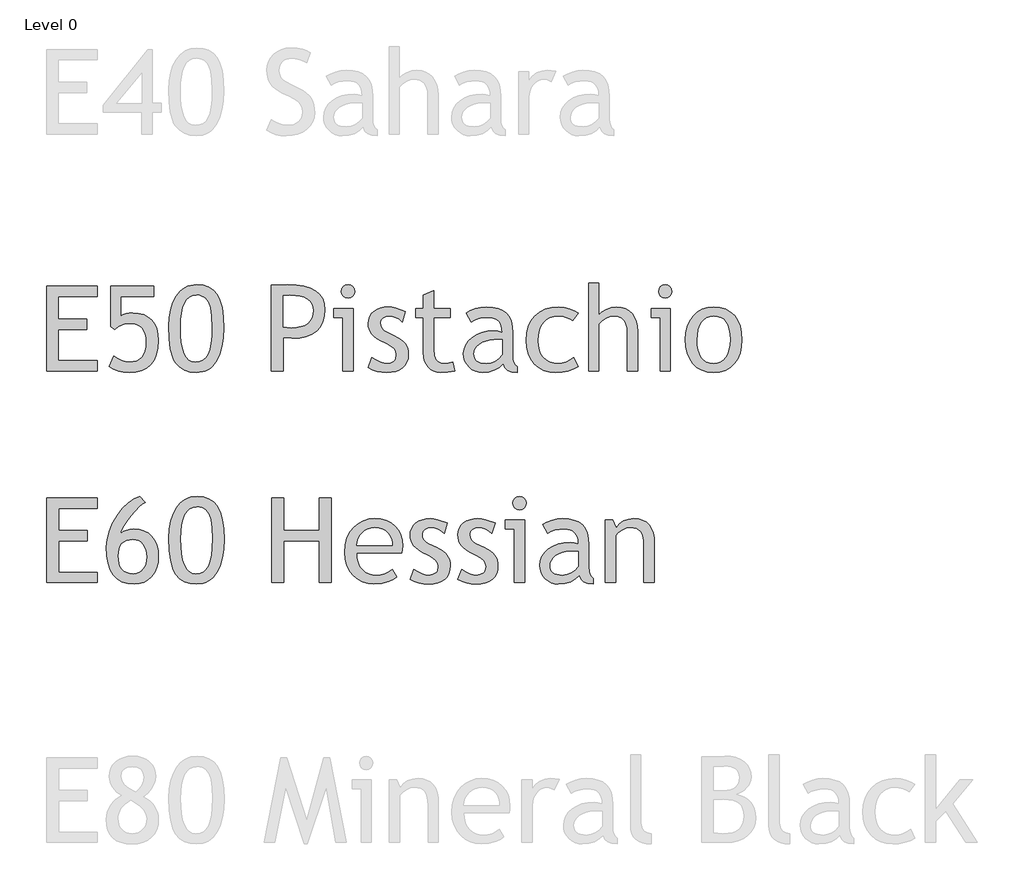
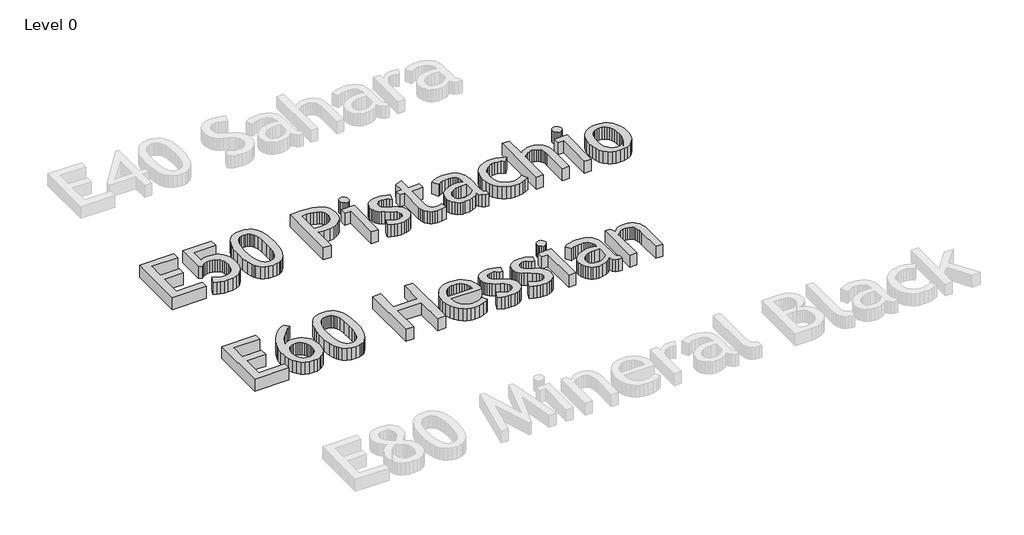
# One storey, part 2 of 5: 2 proxies.
"""IFC4 building model written with IfcOpenShell, lengths in millimetres."""

from ifc_helpers import new_model, si_unit, origin, origin_with_axes, place, context, project, spatial, polyline, outline, extrude, element, save

model = new_model("IFC4")

# Units and contexts
model_context = context("Model", 3, world=origin())
ifc_project = project(units=[si_unit("LENGTHUNIT", "METRE", prefix="MILLI")], contexts=[model_context])

# Site, building, storey
site = spatial("IfcSite", under=ifc_project)
building = spatial("IfcBuilding", under=site)
storey = spatial("IfcBuildingStorey", under=building, Name="Level 0", Elevation=0.0)

# Proxies
placement = place(None, origin())
element("IfcBuildingElementProxy", 1, Name="600mm Arial", ObjectType="600mm Arial", at=placement, inside=storey, context=model_context, shape_type="SweptSolid", body=[
    extrude(outline(polyline([(-18105.4417912, -2234.0434633), (-18105.4417912, -2412.0095649), (-17880.0180624, -2412.0095649), (-17880.0180624, -2495.0604124), (-18105.4417912, -2495.0604124), (-18105.4417912, -2744.2129548), (-17796.9672149, -2744.2129548), (-17796.9672149, -2827.2638022), (-18200.3570454, -2827.2638022), (-18200.3570454, -2150.9926158), (-17796.9672149, -2150.9926158), (-17796.9672149, -2234.0434633), (-18105.4417912, -2234.0434633)])), origin_with_axes(), (0.0, 0.0, 1.0), 150.0),
    extrude(outline(polyline([(-17657.1896725, -2495.0604124), (-17690.1875539, -2473.7415565), (-17690.1875539, -2150.9926158), (-17346.1197573, -2150.9926158), (-17346.1197573, -2234.0434633), (-17607.1367064, -2234.0434633), (-17607.1367064, -2389.9491836), (-17587.8338728, -2378.8378886), (-17566.0747361, -2370.9012493), (-17541.8592965, -2366.1392657), (-17515.1875539, -2364.5519378), (-17468.3497957, -2368.0973563), (-17427.3863092, -2378.7336116), (-17392.2970944, -2396.4607037), (-17363.0821514, -2421.2786327), (-17340.0890701, -2452.6428409), (-17323.6654406, -2490.0087705), (-17313.8112629, -2533.3764214), (-17310.5265369, -2582.7457938), (-17314.1414734, -2642.8354223), (-17324.9862827, -2694.9131004), (-17343.0609649, -2738.9788281), (-17368.36552, -2775.0326052), (-17400.899948, -2803.0744319), (-17440.6642488, -2823.1043081), (-17487.6584225, -2835.1222338), (-17541.8824692, -2839.128209), (-17588.1119448, -2836.1621073), (-17630.2166853, -2827.2638022), (-17668.1966906, -2812.4332938), (-17702.0519607, -2791.6705819), (-17666.4587403, -2708.6197344), (-17634.1328664, -2729.3824463), (-17602.4094819, -2744.2129548), (-17571.2885867, -2753.1112599), (-17540.770181, -2756.0773616), (-17509.0525897, -2753.583403), (-17481.5640105, -2746.1015273), (-17458.3044435, -2733.6317346), (-17439.2738886, -2716.1740247), (-17424.472346, -2693.7283977), (-17413.8998156, -2666.2948536), (-17407.5562973, -2633.8733924), (-17405.4417912, -2596.4640141), (-17407.5476075, -2561.5746636), (-17413.8650565, -2531.3372265), (-17424.3941382, -2505.7517028), (-17439.1348526, -2484.8180925), (-17458.0871997, -2468.5363956), (-17481.2511794, -2456.9066121), (-17508.6267918, -2449.928742), (-17540.2140369, -2447.6027853), (-17571.9258351, -2450.568887), (-17601.9923738, -2459.4671921), (-17630.4136529, -2474.2977005), (-17657.1896725, -2495.0604124)])), origin_with_axes(), (0.0, 0.0, 1.0), 150.0),
    extrude(outline(polyline([(-17227.4756895, -2469.848548), (-17223.7738555, -2400.0930197), (-17212.6683537, -2337.0923245), (-17194.1591839, -2280.8464625), (-17168.2463463, -2231.3554336), (-17135.6250208, -2191.0060228), (-17117.0593677, -2175.1544686), (-17096.9903876, -2162.1850152), (-17075.4180806, -2152.0976625), (-17052.3424466, -2144.8924106), (-17001.681198, -2139.128209), (-16951.7904406, -2143.9365379), (-16908.5270666, -2158.3615247), (-16871.8910761, -2182.4031693), (-16841.8824692, -2216.0614717), (-16818.5244183, -2261.7000443), (-16801.8400963, -2321.6824993), (-16791.8295031, -2396.0088367), (-16788.4926386, -2484.6790565), (-16791.9917117, -2562.782539), (-16802.488931, -2632.1035798), (-16819.9842965, -2692.6421788), (-16844.4778081, -2744.3983361), (-16875.7029803, -2785.8426555), (-16893.7400069, -2802.1243524), (-16913.3933272, -2815.4457408), (-16934.6629412, -2825.8068206), (-16957.5488489, -2833.207592), (-17008.1695454, -2839.128209), (-17058.8539668, -2834.3488459), (-17103.0152817, -2820.0107567), (-17140.6534901, -2796.1139413), (-17171.768592, -2762.6583997), (-17184.824943, -2741.355475), (-17196.1404472, -2715.6816055), (-17213.5489151, -2651.2210321), (-17223.9939959, -2569.2766796), (-17227.4756895, -2469.848548)]), holes=[polyline([(-17132.5604353, -2478.3760904), (-17130.7153114, -2543.4623258), (-17125.17994, -2599.8703965), (-17115.954321, -2647.6003025), (-17103.0384543, -2686.6520438), (-17086.43234, -2717.0256203), (-17066.1359782, -2738.7210321), (-17042.1493686, -2751.7382792), (-17014.4725115, -2756.0773616), (-16982.9634742, -2752.2306984), (-16955.9151757, -2740.690709), (-16933.3276161, -2721.4573933), (-16915.2007954, -2694.5307514), (-16901.2914006, -2657.9758653), (-16891.3561185, -2609.8578171), (-16885.3949493, -2550.1766068), (-16883.4078929, -2478.9322344), (-16886.4666853, -2386.8208732), (-16895.6430624, -2322.9338234), (-16911.6322043, -2279.2301688), (-16922.4422546, -2261.931771), (-16935.1292912, -2247.6689929), (-16949.658555, -2236.5171457), (-16965.9952869, -2228.5515406), (-16984.1394872, -2223.7721775), (-17004.0911556, -2222.1790565), (-17034.201143, -2226.1821351), (-17060.2964654, -2238.1913711), (-17082.3771229, -2258.2067644), (-17100.4431153, -2286.2283149), (-17114.4944428, -2322.2560228), (-17124.5311053, -2366.289888), (-17130.5531028, -2418.3299106), (-17132.5604353, -2478.3760904)])]), origin_with_axes(), (0.0, 0.0, 1.0), 150.0),
    extrude(outline(polyline([(-16313.9163675, -2561.6123192), (-16313.9163675, -2827.2638022), (-16408.8316217, -2827.2638022), (-16408.8316217, -2143.7627429), (-16280.5477234, -2139.128209), (-16210.5083299, -2142.2217604), (-16149.8075221, -2151.5024145), (-16098.4453002, -2166.9701714), (-16056.4216641, -2188.625031), (-16023.7366138, -2216.4669934), (-16000.3901492, -2250.4960586), (-15986.3822705, -2290.7122265), (-15981.7129776, -2337.1154972), (-15985.8261265, -2390.8181587), (-15998.165573, -2437.3604654), (-16018.7313171, -2476.7424172), (-16047.523359, -2508.9640141), (-16084.5416985, -2534.0252562), (-16129.7863357, -2551.9261433), (-16183.2572705, -2562.6666756), (-16244.9545031, -2566.2468531), (-16313.9163675, -2561.6123192)]), holes=[polyline([(-16313.9163675, -2226.8135904), (-16313.9163675, -2478.5614717), (-16251.0720878, -2483.1960056), (-16210.1868091, -2481.0670166), (-16174.7529008, -2474.6800496), (-16144.7703631, -2464.0351045), (-16120.2391958, -2449.1321815), (-16101.1593991, -2429.9712804), (-16087.5309729, -2406.5524013), (-16079.3539171, -2378.8755442), (-16076.6282319, -2346.940709), (-16079.5364019, -2317.6996967), (-16088.2609119, -2292.357486), (-16102.8017621, -2270.914077), (-16123.1589522, -2253.3694696), (-16149.3324824, -2239.7236639), (-16181.3223526, -2229.9766598), (-16219.1285629, -2224.1284573), (-16262.7511132, -2222.1790565), (-16313.9163675, -2226.8135904)])]), origin_with_axes(), (0.0, 0.0, 1.0), 150.0),
    extrude(outline(polyline([(-15839.3400963, -2827.2638022), (-15839.3400963, -2400.1451582), (-15910.5265369, -2400.1451582), (-15910.5265369, -2328.9587175), (-15756.2892488, -2328.9587175), (-15756.2892488, -2827.2638022), (-15839.3400963, -2827.2638022)])), origin_with_axes(), (0.0, 0.0, 1.0), 150.0),
    extrude(outline(polyline([(-15798.0000539, -2139.128209), (-15777.3995507, -2143.0443902), (-15760.0895666, -2154.7929336), (-15748.3410232, -2172.010227), (-15744.424842, -2192.3326582), (-15748.3410232, -2212.9331613), (-15760.0895666, -2230.2431455), (-15777.3995507, -2241.9916889), (-15798.0000539, -2245.90787), (-15818.322485, -2241.9916889), (-15835.5397785, -2230.2431455), (-15847.2883219, -2212.9331613), (-15851.2045031, -2192.3326582), (-15847.3346672, -2171.7785003), (-15835.7251598, -2154.6075522), (-15818.5542117, -2142.9980448), (-15798.0000539, -2139.128209)])), origin_with_axes(), (0.0, 0.0, 1.0), 150.0),
    extrude(outline(polyline([(-15637.645181, -2801.3104124), (-15607.42802, -2720.4841412), (-15573.2251598, -2741.2468531), (-15542.5445454, -2756.0773616), (-15515.3861768, -2764.9756666), (-15491.7500539, -2767.9417683), (-15456.9562907, -2763.5042021), (-15432.1036026, -2750.1915035), (-15423.4051618, -2740.2069795), (-15417.1919898, -2728.0036725), (-15412.2214522, -2696.940709), (-15417.0877128, -2672.435611), (-15431.6864946, -2649.7148086), (-15456.0177975, -2628.7783017), (-15490.0816217, -2609.6260904), (-15540.3431418, -2584.831334), (-15571.0005836, -2566.8029972), (-15590.4656259, -2551.1614452), (-15607.149948, -2533.5270438), (-15620.5205783, -2514.3169008), (-15630.0445454, -2493.9481243), (-15635.7450221, -2472.2121603), (-15637.645181, -2448.9004548), (-15634.8702538, -2419.5522689), (-15626.5454723, -2393.6104654), (-15612.6708365, -2371.0750443), (-15593.2463463, -2351.9460056), (-15569.3495309, -2336.6983891), (-15542.0579194, -2325.8072344), (-15511.3715118, -2319.2725416), (-15477.2903081, -2317.0943107), (-15448.5446116, -2319.284128), (-15416.2534967, -2325.8535798), (-15341.0350115, -2352.131387), (-15365.6907319, -2435.7383785), (-15391.4934993, -2414.9756666), (-15417.3657848, -2400.1451582), (-15443.3075883, -2391.2468531), (-15469.3189098, -2388.2807514), (-15497.844466, -2392.1274145), (-15521.5037615, -2403.6674039), (-15537.4233855, -2421.046906), (-15542.7299268, -2442.4121073), (-15539.381476, -2465.6542948), (-15529.3361238, -2485.8840353), (-15512.5938701, -2503.1013287), (-15489.1547149, -2517.3061751), (-15426.8665793, -2547.1525734), (-15377.3697573, -2575.9098563), (-15358.460859, -2591.6962374), (-15343.4449692, -2608.4211116), (-15332.0092568, -2626.6985546), (-15323.8408908, -2647.1426423), (-15318.9398712, -2669.7533745), (-15317.306198, -2694.5307514), (-15320.1969885, -2726.6133123), (-15328.86936, -2755.0114188), (-15343.3233126, -2779.7250708), (-15363.5588463, -2800.7542683), (-15388.9271262, -2817.5428674), (-15418.7793177, -2829.5347238), (-15453.1154207, -2836.7298377), (-15491.9354353, -2839.128209), (-15530.1008219, -2836.7645967), (-15567.1075751, -2829.6737599), (-15602.9556948, -2817.8556984), (-15637.645181, -2801.3104124)])), origin_with_axes(), (0.0, 0.0, 1.0), 150.0),
    extrude(outline(polyline([(-15198.6621302, -2400.1451582), (-15257.9841641, -2400.1451582), (-15257.9841641, -2328.9587175), (-15198.6621302, -2328.9587175), (-15198.6621302, -2221.6229124), (-15115.6112827, -2186.5858361), (-15115.6112827, -2328.9587175), (-14985.1028081, -2328.9587175), (-14985.1028081, -2400.1451582), (-15115.6112827, -2400.1451582), (-15115.6112827, -2650.59537), (-15110.5132954, -2705.004798), (-15104.1408113, -2725.3272291), (-15095.2193336, -2741.0614717), (-15083.4707901, -2752.8216015), (-15068.617109, -2761.2216942), (-15050.6582901, -2766.2617498), (-15029.5943336, -2767.9417683), (-14996.4110708, -2764.9756666), (-14962.11552, -2756.0773616), (-14949.5095878, -2826.5222768), (-15004.4751598, -2835.976726), (-15064.4460285, -2839.128209), (-15091.6101903, -2836.3706613), (-15116.5613622, -2828.0980183), (-15139.2995441, -2814.31028), (-15159.8247361, -2795.0074463), (-15176.816096, -2771.5103594), (-15188.9527817, -2745.1398616), (-15196.234793, -2715.8959527), (-15198.6621302, -2683.7786327), (-15198.6621302, -2400.1451582)])), origin_with_axes(), (0.0, 0.0, 1.0), 150.0),
    extrude(outline(polyline([(-14562.0625539, -2767.9417683), (-14593.0212403, -2799.0858361), (-14631.2097997, -2821.3315988), (-14676.6282319, -2834.6790565), (-14729.2765369, -2839.128209), (-14758.4856868, -2836.4401794), (-14785.6788145, -2828.3760904), (-14810.8559199, -2814.9359421), (-14834.0170031, -2796.1197344), (-14853.4009411, -2773.3062413), (-14867.2466111, -2747.8742366), (-14875.5540131, -2719.8237201), (-14878.3231471, -2689.1546921), (-14874.0419964, -2652.3564929), (-14861.1985444, -2618.5243955), (-14839.7927909, -2587.6583997), (-14809.8247361, -2559.7585056), (-14773.2177115, -2536.6437678), (-14731.8950486, -2520.1332408), (-14685.8567475, -2510.2269246), (-14635.1028081, -2506.9248192), (-14604.4221937, -2509.8909209), (-14569.8485708, -2518.789226), (-14571.6096937, -2490.9820226), (-14576.8930624, -2466.8824463), (-14585.6986768, -2446.4904972), (-14598.0265369, -2429.8061751), (-14613.8766429, -2416.8294802), (-14633.2489946, -2407.5604124), (-14656.143592, -2401.9989717), (-14682.5604353, -2400.1451582), (-14723.3443336, -2402.3697344), (-14759.1229353, -2409.0434633), (-14789.8962403, -2420.1663446), (-14815.6642488, -2435.7383785), (-14854.5943336, -2364.5519378), (-14824.0991005, -2346.454083), (-14783.7786556, -2331.0906031), (-14739.5188569, -2320.5933838), (-14697.2055624, -2317.0943107), (-14645.7448566, -2320.1936553), (-14601.8500274, -2329.4916889), (-14565.5210748, -2344.9884116), (-14536.7579988, -2366.6838234), (-14514.9003783, -2395.1224821), (-14499.2877922, -2430.8489452), (-14489.9202406, -2473.863213), (-14486.7977234, -2524.1652853), (-14486.7977234, -2703.7998192), (-14484.5731471, -2733.9706349), (-14477.8994183, -2758.6727005), (-14466.7765369, -2777.9060162), (-14451.2045031, -2791.6705819), (-14451.2045031, -2839.128209), (-14495.1167117, -2835.0034738), (-14526.3766429, -2822.6292683), (-14547.7650168, -2800.707923), (-14562.0625539, -2767.9417683)]), holes=[polyline([(-14569.8485708, -2578.1112599), (-14632.6928505, -2578.1112599), (-14666.9188833, -2580.2199728), (-14697.8543971, -2586.5461116), (-14725.4993918, -2597.0896762), (-14749.8538675, -2611.8506666), (-14769.7244315, -2629.4966545), (-14783.9176916, -2648.6952111), (-14792.4336476, -2669.4463367), (-14795.2722997, -2691.750031), (-14793.7371103, -2709.6074695), (-14789.1315422, -2725.0839161), (-14781.4555955, -2738.179371), (-14770.70927, -2748.893834), (-14756.8925658, -2757.2273053), (-14740.0054829, -2763.1797848), (-14697.020181, -2767.9417683), (-14662.1684861, -2763.4926158), (-14629.3559861, -2750.1451582), (-14598.582681, -2727.8993955), (-14569.8485708, -2696.7553277), (-14569.8485708, -2578.1112599)])]), origin_with_axes(), (0.0, 0.0, 1.0), 150.0),
    extrude(outline(polyline([(-13964.7638251, -2364.5519378), (-14009.2553505, -2423.8739717), (-14028.0947308, -2411.4302482), (-14057.5471937, -2399.6817048), (-14092.0049533, -2391.1309897), (-14125.8602234, -2388.2807514), (-14160.5844686, -2391.5365115), (-14191.5315687, -2401.3037916), (-14218.7015237, -2417.582592), (-14242.0943336, -2440.3729124), (-14260.9105412, -2468.8289505), (-14274.3506895, -2502.1049039), (-14282.4147785, -2540.2007726), (-14285.1028081, -2583.1165565), (-14282.3800195, -2625.568887), (-14274.2116535, -2662.6451582), (-14260.5977101, -2694.34537), (-14241.5381895, -2720.6695226), (-14217.6471672, -2741.3511301), (-14189.5387192, -2756.1237069), (-14157.2128452, -2764.987253), (-14120.6695454, -2767.9417683), (-14090.6609384, -2764.9756666), (-14060.5132954, -2756.0773616), (-14030.2266164, -2741.2468531), (-13999.8009014, -2720.4841412), (-13964.7638251, -2791.6705819), (-14002.8596937, -2812.4332938), (-14045.2193336, -2827.2638022), (-14091.8427446, -2836.1621073), (-14142.7299268, -2839.128209), (-14191.9428836, -2834.8122993), (-14236.6951016, -2821.8645702), (-14276.9865806, -2800.2850218), (-14312.8173208, -2770.0736539), (-14342.2176453, -2732.4933772), (-14363.217877, -2688.807102), (-14375.818016, -2639.0148285), (-14380.0180624, -2583.1165565), (-14375.6268415, -2525.9264082), (-14362.4531789, -2474.6684633), (-14340.4970746, -2429.3427217), (-14309.7585285, -2389.9491836), (-14271.3961741, -2358.0751767), (-14226.568645, -2335.3080289), (-14175.2759411, -2321.6477403), (-14117.5180624, -2317.0943107), (-14076.5719554, -2320.9641465), (-14032.3353293, -2332.5736539), (-13992.5015105, -2348.3078965), (-13964.7638251, -2364.5519378)])), origin_with_axes(), (0.0, 0.0, 1.0), 150.0),
    extrude(outline(polyline([(-13573.2384014, -2827.2638022), (-13573.2384014, -2509.8909209), (-13575.0053174, -2483.1206944), (-13580.3060656, -2459.3513287), (-13589.1406458, -2438.5828237), (-13601.5090581, -2420.8151794), (-13617.0868852, -2406.5813671), (-13635.5497096, -2396.4143584), (-13656.8975314, -2390.3141531), (-13681.1303505, -2388.2807514), (-13714.3367859, -2393.0543213), (-13747.5895666, -2407.375031), (-13776.9956842, -2428.0450522), (-13798.6621302, -2451.8665565), (-13798.6621302, -2827.2638022), (-13881.7129776, -2827.2638022), (-13881.7129776, -2127.2638022), (-13798.6621302, -2127.2638022), (-13798.6621302, -2381.0508785), (-13775.4431153, -2356.0243955), (-13741.3792912, -2335.4470649), (-13701.2442276, -2321.6824993), (-13659.8114946, -2317.0943107), (-13622.2775632, -2320.3674503), (-13589.0189893, -2330.186869), (-13560.0357729, -2346.5525668), (-13535.3279141, -2369.4645438), (-13515.5790065, -2398.0422384), (-13501.4726439, -2431.4050893), (-13493.0088264, -2469.5530965), (-13490.1875539, -2512.4862599), (-13490.1875539, -2827.2638022), (-13573.2384014, -2827.2638022)])), origin_with_axes(), (0.0, 0.0, 1.0), 150.0),
    extrude(outline(polyline([(-13312.2214522, -2827.2638022), (-13312.2214522, -2400.1451582), (-13383.4078929, -2400.1451582), (-13383.4078929, -2328.9587175), (-13229.1706047, -2328.9587175), (-13229.1706047, -2827.2638022), (-13312.2214522, -2827.2638022)])), origin_with_axes(), (0.0, 0.0, 1.0), 150.0),
    extrude(outline(polyline([(-13270.8814098, -2139.128209), (-13250.2809067, -2143.0443902), (-13232.9709225, -2154.7929336), (-13221.2223791, -2172.010227), (-13217.306198, -2192.3326582), (-13221.2223791, -2212.9331613), (-13232.9709225, -2230.2431455), (-13250.2809067, -2241.9916889), (-13270.8814098, -2245.90787), (-13291.203841, -2241.9916889), (-13308.4211344, -2230.2431455), (-13320.1696778, -2212.9331613), (-13324.085859, -2192.3326582), (-13320.2160232, -2171.7785003), (-13308.6065158, -2154.6075522), (-13291.4355677, -2142.9980448), (-13270.8814098, -2139.128209)])), origin_with_axes(), (0.0, 0.0, 1.0), 150.0),
    extrude(outline(polyline([(-13110.5265369, -2576.9989717), (-13106.6451148, -2521.5062215), (-13095.0008484, -2471.6328435), (-13075.5937377, -2427.378838), (-13048.4237827, -2388.7442048), (-13014.9161026, -2357.3973761), (-12976.4958166, -2335.0067842), (-12933.1629247, -2321.5724291), (-12884.9174268, -2317.0943107), (-12834.3488688, -2321.3986341), (-12789.7936185, -2334.3116041), (-12751.251676, -2355.8332209), (-12718.7230412, -2385.9634844), (-12692.8913079, -2423.7291425), (-12674.4400698, -2468.1569431), (-12663.3693269, -2519.2468862), (-12659.6790793, -2576.9989717), (-12663.4620176, -2634.5946417), (-12674.8108325, -2685.7714823), (-12693.725524, -2730.5294934), (-12720.206092, -2768.8686751), (-12753.1981802, -2799.6072212), (-12791.6474321, -2821.5633255), (-12835.5538476, -2834.7369881), (-12884.9174268, -2839.128209), (-12935.1963264, -2834.696436), (-12979.624127, -2821.4011169), (-13018.2008285, -2799.2422517), (-13050.926431, -2768.2198404), (-13077.0014774, -2729.6778978), (-13095.6265105, -2684.9604389), (-13106.8015303, -2634.0674635), (-13110.5265369, -2576.9989717)]), holes=[polyline([(-13015.6112827, -2576.9989717), (-13013.5691912, -2621.7511897), (-13007.4429167, -2660.5364452), (-12997.2324592, -2693.3547384), (-12982.9378187, -2720.2060692), (-12964.5589952, -2741.0904376), (-12942.0959888, -2756.0078435), (-12915.5487993, -2764.9582871), (-12884.9174268, -2767.9417683), (-12856.0674533, -2764.7439399), (-12830.5079988, -2755.1504548), (-12808.2390634, -2739.1613128), (-12789.2606471, -2716.7765141), (-12774.0941349, -2688.8534474), (-12763.2609119, -2656.2495014), (-12756.7609782, -2618.9646762), (-12754.5943336, -2576.9989717), (-12756.6306319, -2532.7681388), (-12762.7395269, -2494.4347503), (-12772.9210185, -2461.9988062), (-12787.1751069, -2435.4603065), (-12805.5017918, -2414.8192511), (-12827.9010735, -2400.0756402), (-12854.3729518, -2391.2294736), (-12884.9174268, -2388.2807514), (-12913.1764972, -2391.4206481), (-12938.4462933, -2400.8403383), (-12960.726815, -2416.5398218), (-12980.0180624, -2438.5190988), (-12995.5900963, -2466.0134712), (-13006.7129776, -2498.2582408), (-13013.3867064, -2535.2534076), (-13015.6112827, -2576.9989717)])]), origin_with_axes(), (0.0, 0.0, 1.0), 150.0),
])
element("IfcBuildingElementProxy", 2, Name="600mm Arial", ObjectType="600mm Arial", at=placement, inside=storey, context=model_context, shape_type="SweptSolid", body=[
    extrude(outline(polyline([(-18103.2260811, -3921.2634747), (-18103.2260811, -4099.2295764), (-17877.8023522, -4099.2295764), (-17877.8023522, -4182.2804238), (-18103.2260811, -4182.2804238), (-18103.2260811, -4431.4329662), (-17794.7515048, -4431.4329662), (-17794.7515048, -4514.4838137), (-18198.1413353, -4514.4838137), (-18198.1413353, -3838.2126272), (-17794.7515048, -3838.2126272), (-17794.7515048, -3921.2634747), (-18103.2260811, -3921.2634747)])), origin_with_axes(), (0.0, 0.0, 1.0), 150.0),
    extrude(outline(polyline([(-17458.8404878, -3826.3482204), (-17415.0904878, -3873.8058476), (-17436.9481083, -3886.5392295), (-17463.2201224, -3908.7965785), (-17529.0073311, -3981.8831781), (-17562.1500416, -4025.3435197), (-17586.9621775, -4063.5900107), (-17603.4437386, -4096.6226511), (-17611.5947251, -4124.4414408), (-17590.6350456, -4108.2205721), (-17565.9445662, -4096.6342374), (-17537.5232871, -4089.6824365), (-17505.3712082, -4087.3651696), (-17462.9130845, -4090.9743129), (-17424.892527, -4101.8017427), (-17391.3095358, -4119.8474591), (-17362.1641107, -4145.111462), (-17338.603299, -4176.7016037), (-17321.7741478, -4213.7257363), (-17311.6766571, -4256.18386), (-17308.3108268, -4304.0759747), (-17311.7693477, -4351.6900173), (-17322.1449105, -4394.426213), (-17339.4375151, -4432.2845618), (-17363.6471616, -4465.2650637), (-17393.0706587, -4491.9889448), (-17426.0048152, -4511.0774313), (-17462.4496311, -4522.5305231), (-17502.4051065, -4526.3482204), (-17554.2394716, -4521.7368592), (-17599.1625879, -4507.9027755), (-17637.1744557, -4484.8459694), (-17668.2750747, -4452.5664408), (-17692.4644451, -4411.0641897), (-17709.7425668, -4360.3392162), (-17720.1094398, -4300.3915202), (-17723.5650641, -4231.2211018), (-17718.2585228, -4169.4949034), (-17702.3388989, -4107.038766), (-17675.8061923, -4043.8526895), (-17638.6604031, -3979.9366738), (-17595.5824105, -3922.1266566), (-17551.2530938, -3877.2585753), (-17505.6724529, -3845.3324299), (-17458.8404878, -3826.3482204)]), holes=[polyline([(-17628.6498099, -4301.4806357), (-17626.8017895, -4334.7189335), (-17621.2577283, -4363.5254583), (-17612.0176263, -4387.90021), (-17599.0814836, -4407.8431887), (-17582.4493001, -4423.3543943), (-17562.1210758, -4434.4338269), (-17538.0968107, -4441.0814865), (-17510.3765048, -4443.297373), (-17486.8446589, -4440.9858992), (-17465.9313247, -4434.0514779), (-17447.6365021, -4422.494109), (-17431.9601912, -4406.3137925), (-17419.389018, -4386.3447445), (-17410.4096086, -4363.4211813), (-17405.0219629, -4337.5431026), (-17403.2260811, -4308.7105086), (-17405.12624, -4278.7830059), (-17410.8267167, -4252.030159), (-17420.3275111, -4228.4519678), (-17433.6286234, -4208.0484323), (-17449.9190101, -4191.5842506), (-17468.3876277, -4179.8241209), (-17489.0344762, -4172.768043), (-17511.8595556, -4170.4160171), (-17539.2322715, -4172.4639017), (-17562.9552919, -4178.6075557), (-17583.0286168, -4188.8469791), (-17599.4522463, -4203.1821717), (-17612.2261804, -4221.6131337), (-17621.350419, -4244.139865), (-17626.8249621, -4270.7623657), (-17628.6498099, -4301.4806357)])]), origin_with_axes(), (0.0, 0.0, 1.0), 150.0),
    extrude(outline(polyline([(-17225.2599794, -4157.0685594), (-17221.5581454, -4087.3130311), (-17210.4526436, -4024.3123359), (-17191.9434738, -3968.0664739), (-17166.0306361, -3918.575445), (-17133.4093107, -3878.2260343), (-17114.8436575, -3862.37448), (-17094.7746775, -3849.4050266), (-17073.2023705, -3839.3176739), (-17050.1267365, -3832.112422), (-16999.4654878, -3826.3482204), (-16949.5747304, -3831.1565494), (-16906.3113565, -3845.5815361), (-16869.675366, -3869.6231807), (-16839.666759, -3903.2814832), (-16816.3087082, -3948.9200557), (-16799.6243861, -4008.9025107), (-16789.6137929, -4083.2288481), (-16786.2769285, -4171.8990679), (-16789.7760016, -4250.0025504), (-16800.2732209, -4319.3235912), (-16817.7685864, -4379.8621903), (-16842.262098, -4431.6183476), (-16873.4872701, -4473.062667), (-16891.5242968, -4489.3443639), (-16911.1776171, -4502.6657522), (-16932.4472311, -4513.0268321), (-16955.3331388, -4520.4276034), (-17005.9538353, -4526.3482204), (-17056.6382566, -4521.5688574), (-17100.7995715, -4507.2307681), (-17138.4377799, -4483.3339527), (-17169.5528819, -4449.8784111), (-17182.6092329, -4428.5754864), (-17193.924737, -4402.9016169), (-17211.333205, -4338.4410435), (-17221.7782858, -4256.496691), (-17225.2599794, -4157.0685594)]), holes=[polyline([(-17130.3447251, -4165.5961018), (-17128.4996013, -4230.6823372), (-17122.9642299, -4287.0904079), (-17113.7386109, -4334.8203139), (-17100.8227442, -4373.8720552), (-17084.2166299, -4404.2456317), (-17063.920268, -4425.9410435), (-17039.9336585, -4438.9582906), (-17012.2568014, -4443.297373), (-16980.7477641, -4439.4507099), (-16953.6994656, -4427.9107204), (-16931.111906, -4408.6774048), (-16912.9850853, -4381.7507628), (-16899.0756904, -4345.1958767), (-16889.1404084, -4297.0778285), (-16883.1792392, -4237.3966182), (-16881.1921828, -4166.1522459), (-16884.2509751, -4074.0408846), (-16893.4273522, -4010.1538349), (-16909.4164942, -3966.4501802), (-16920.2265445, -3949.1517824), (-16932.9135811, -3934.8890043), (-16947.4428448, -3923.7371572), (-16963.7795768, -3915.771552), (-16981.923777, -3910.9921889), (-17001.8754455, -3909.3990679), (-17031.9854329, -3913.4021466), (-17058.0807553, -3925.4113825), (-17080.1614128, -3945.4267758), (-17098.2274052, -3973.4483264), (-17112.2787327, -4009.4760343), (-17122.3153951, -4053.5098995), (-17128.3373926, -4105.549922), (-17130.3447251, -4165.5961018)])]), origin_with_axes(), (0.0, 0.0, 1.0), 150.0),
    extrude(outline(polyline([(-16026.9548946, -4514.4838137), (-16026.9548946, -4182.2804238), (-16311.7006573, -4182.2804238), (-16311.7006573, -4514.4838137), (-16406.6159116, -4514.4838137), (-16406.6159116, -3838.2126272), (-16311.7006573, -3838.2126272), (-16311.7006573, -4099.2295764), (-16026.9548946, -4099.2295764), (-16026.9548946, -3838.2126272), (-15932.0396404, -3838.2126272), (-15932.0396404, -4514.4838137), (-16026.9548946, -4514.4838137)])), origin_with_axes(), (0.0, 0.0, 1.0), 150.0),
    extrude(outline(polyline([(-15369.5926065, -4277.1956781), (-15730.3447251, -4277.1956781), (-15727.3554508, -4319.0223465), (-15718.3876277, -4355.7046823), (-15703.4412558, -4387.2426855), (-15682.5163353, -4413.636356), (-15659.7955329, -4431.8037289), (-15634.0854561, -4444.7804238), (-15605.3861049, -4452.5664408), (-15573.6974794, -4455.1617798), (-15537.3627336, -4452.1956781), (-15504.1794709, -4443.297373), (-15474.1476912, -4428.4668645), (-15447.2673946, -4407.7041526), (-15410.0057421, -4467.0261865), (-15436.0518226, -4487.6035171), (-15473.0354031, -4505.2147459), (-15529.2986446, -4521.0648518), (-15591.6794709, -4526.3482204), (-15637.0747304, -4522.3277623), (-15678.9013989, -4510.2663878), (-15717.1594762, -4490.164097), (-15751.8489624, -4462.0208899), (-15783.9662823, -4423.4731542), (-15806.9072251, -4378.8310065), (-15820.6717908, -4328.0944466), (-15825.2599794, -4271.2634747), (-15820.5443411, -4212.0573041), (-15806.3974264, -4159.0150637), (-15782.8192352, -4112.1367533), (-15749.8097675, -4071.422373), (-15714.5177919, -4042.0626007), (-15676.1206785, -4021.0913349), (-15634.6184275, -4008.5085753), (-15590.0110387, -4004.3143221), (-15539.1702018, -4008.1493989), (-15494.1688777, -4019.6546293), (-15455.0070662, -4038.8300133), (-15421.6847675, -4065.675551), (-15395.812482, -4097.5611442), (-15377.3322781, -4134.2666526), (-15366.2441557, -4175.7920764), (-15362.548115, -4222.1374154), (-15364.3092378, -4250.8251802), (-15369.5926065, -4277.1956781)]), holes=[polyline([(-15583.3373099, -4075.5007628), (-15612.6043914, -4078.1424471), (-15639.41517, -4086.0675001), (-15663.7696457, -4099.2759217), (-15685.6678183, -4117.767712), (-15703.2674608, -4139.1097406), (-15716.5801594, -4162.9080721), (-15725.6059142, -4189.1627067), (-15730.3447251, -4217.8736442), (-15445.5989624, -4217.8736442), (-15447.7540207, -4189.4407787), (-15454.2191955, -4163.4642162), (-15464.9944868, -4139.9439567), (-15480.0798946, -4118.8800001), (-15500.7846748, -4099.9015838), (-15524.8958374, -4086.3455721), (-15552.4133824, -4078.2119651), (-15583.3373099, -4075.5007628)])]), origin_with_axes(), (0.0, 0.0, 1.0), 150.0),
    extrude(outline(polyline([(-15303.2260811, -4488.5304238), (-15273.00892, -4407.7041526), (-15238.8060599, -4428.4668645), (-15208.1254455, -4443.297373), (-15180.9670768, -4452.1956781), (-15157.3309539, -4455.1617798), (-15122.5371907, -4450.7242136), (-15097.6845027, -4437.4115149), (-15088.9860619, -4427.426991), (-15082.7728899, -4415.2236839), (-15077.8023522, -4384.1607204), (-15082.6686128, -4359.6556225), (-15097.2673946, -4336.93482), (-15121.5986976, -4315.9983131), (-15155.6625217, -4296.8461018), (-15205.9240419, -4272.0513454), (-15236.5814836, -4254.0230086), (-15256.046526, -4238.3814567), (-15272.730848, -4220.7470552), (-15286.1014783, -4201.5369122), (-15295.6254455, -4181.1681357), (-15301.3259222, -4159.4321717), (-15303.2260811, -4136.1204662), (-15300.4511539, -4106.7722803), (-15292.1263724, -4080.8304768), (-15278.2517365, -4058.2950557), (-15258.8272463, -4039.1660171), (-15234.9304309, -4023.9184005), (-15207.6388194, -4013.0272459), (-15176.9524118, -4006.4925531), (-15142.8712082, -4004.3143221), (-15114.1255117, -4006.5041394), (-15081.8343967, -4013.0735912), (-15006.6159116, -4039.3513984), (-15031.2716319, -4122.9583899), (-15057.0743994, -4102.1956781), (-15082.9466849, -4087.3651696), (-15108.8884884, -4078.4668645), (-15134.8998099, -4075.5007628), (-15163.425366, -4079.347426), (-15187.0846616, -4090.8874154), (-15203.0042855, -4108.2669175), (-15208.3108268, -4129.6321188), (-15204.9623761, -4152.8743063), (-15194.9170239, -4173.1040467), (-15178.1747701, -4190.3213401), (-15154.735615, -4204.5261865), (-15092.4474794, -4234.3725849), (-15042.9506573, -4263.1298677), (-15024.041759, -4278.9162488), (-15009.0258692, -4295.641123), (-14997.5901568, -4313.918566), (-14989.4217908, -4334.3626537), (-14984.5207712, -4356.973386), (-14982.887098, -4381.7507628), (-14985.7778885, -4413.8333237), (-14994.4502601, -4442.2314302), (-15008.9042127, -4466.9450822), (-15029.1397463, -4487.9742798), (-15054.5080262, -4504.7628788), (-15084.3602177, -4516.7547353), (-15118.6963207, -4523.9498492), (-15157.5163353, -4526.3482204), (-15195.6817219, -4523.9846082), (-15232.6884751, -4516.8937713), (-15268.5365948, -4505.0757099), (-15303.2260811, -4488.5304238)])), origin_with_axes(), (0.0, 0.0, 1.0), 150.0),
    extrude(outline(polyline([(-14923.5650641, -4488.5304238), (-14893.3479031, -4407.7041526), (-14859.1450429, -4428.4668645), (-14828.4644285, -4443.297373), (-14801.3060599, -4452.1956781), (-14777.669937, -4455.1617798), (-14742.8761737, -4450.7242136), (-14718.0234857, -4437.4115149), (-14709.3250449, -4427.426991), (-14703.1118729, -4415.2236839), (-14698.1413353, -4384.1607204), (-14703.0075959, -4359.6556225), (-14717.6063777, -4336.93482), (-14741.9376806, -4315.9983131), (-14776.0015048, -4296.8461018), (-14826.2630249, -4272.0513454), (-14856.9204667, -4254.0230086), (-14876.385509, -4238.3814567), (-14893.0698311, -4220.7470552), (-14906.4404614, -4201.5369122), (-14915.9644285, -4181.1681357), (-14921.6649052, -4159.4321717), (-14923.5650641, -4136.1204662), (-14920.7901369, -4106.7722803), (-14912.4653554, -4080.8304768), (-14898.5907196, -4058.2950557), (-14879.1662294, -4039.1660171), (-14855.269414, -4023.9184005), (-14827.9778025, -4013.0272459), (-14797.2913949, -4006.4925531), (-14763.2101912, -4004.3143221), (-14734.4644947, -4006.5041394), (-14702.1733798, -4013.0735912), (-14626.9548946, -4039.3513984), (-14651.610615, -4122.9583899), (-14677.4133824, -4102.1956781), (-14703.2856679, -4087.3651696), (-14729.2274714, -4078.4668645), (-14755.2387929, -4075.5007628), (-14783.7643491, -4079.347426), (-14807.4236446, -4090.8874154), (-14823.3432686, -4108.2669175), (-14828.6498099, -4129.6321188), (-14825.3013591, -4152.8743063), (-14815.2560069, -4173.1040467), (-14798.5137532, -4190.3213401), (-14775.074598, -4204.5261865), (-14712.7864624, -4234.3725849), (-14663.2896404, -4263.1298677), (-14644.3807421, -4278.9162488), (-14629.3648522, -4295.641123), (-14617.9291399, -4313.918566), (-14609.7607739, -4334.3626537), (-14604.8597543, -4356.973386), (-14603.2260811, -4381.7507628), (-14606.1168716, -4413.8333237), (-14614.7892431, -4442.2314302), (-14629.2431957, -4466.9450822), (-14649.4787294, -4487.9742798), (-14674.8470093, -4504.7628788), (-14704.6992008, -4516.7547353), (-14739.0353038, -4523.9498492), (-14777.8553183, -4526.3482204), (-14816.020705, -4523.9846082), (-14853.0274582, -4516.8937713), (-14888.8755779, -4505.0757099), (-14923.5650641, -4488.5304238)])), origin_with_axes(), (0.0, 0.0, 1.0), 150.0),
    extrude(outline(polyline([(-14472.7176065, -4514.4838137), (-14472.7176065, -4087.3651696), (-14543.9040472, -4087.3651696), (-14543.9040472, -4016.1787289), (-14389.666759, -4016.1787289), (-14389.666759, -4514.4838137), (-14472.7176065, -4514.4838137)])), origin_with_axes(), (0.0, 0.0, 1.0), 150.0),
    extrude(outline(polyline([(-14431.3775641, -3826.3482204), (-14410.7770609, -3830.2644016), (-14393.4670768, -3842.012945), (-14381.7185334, -3859.2302385), (-14377.8023522, -3879.5526696), (-14381.7185334, -3900.1531728), (-14393.4670768, -3917.4631569), (-14410.7770609, -3929.2117003), (-14431.3775641, -3933.1278815), (-14451.6999953, -3929.2117003), (-14468.9172887, -3917.4631569), (-14480.6658321, -3900.1531728), (-14484.5820133, -3879.5526696), (-14480.7121775, -3858.9985118), (-14469.10267, -3841.8275637), (-14451.9317219, -3830.2180563), (-14431.3775641, -3826.3482204)])), origin_with_axes(), (0.0, 0.0, 1.0), 150.0),
    extrude(outline(polyline([(-13954.762098, -4455.1617798), (-13985.7207844, -4486.3058476), (-14023.9093438, -4508.5516103), (-14069.327776, -4521.8990679), (-14121.9760811, -4526.3482204), (-14151.185231, -4523.6601908), (-14178.3783586, -4515.5961018), (-14203.555464, -4502.1559535), (-14226.7165472, -4483.3397459), (-14246.1004852, -4460.5262528), (-14259.9461552, -4435.094248), (-14268.2535572, -4407.0437316), (-14271.0226912, -4376.3747035), (-14266.7415405, -4339.5765043), (-14253.8980885, -4305.7444069), (-14232.492335, -4274.8784111), (-14202.5242802, -4246.9785171), (-14165.9172556, -4223.8637792), (-14124.5945927, -4207.3532522), (-14078.5562916, -4197.446936), (-14027.8023522, -4194.1448306), (-13997.1217378, -4197.1109323), (-13962.548115, -4206.0092374), (-13964.3092378, -4178.202034), (-13969.5926065, -4154.1024577), (-13978.3982209, -4133.7105086), (-13990.7260811, -4117.0261865), (-14006.576187, -4104.0494916), (-14025.9485387, -4094.7804238), (-14048.8431361, -4089.2189832), (-14075.2599794, -4087.3651696), (-14116.0438777, -4089.5897459), (-14151.8224794, -4096.2634747), (-14182.5957844, -4107.386356), (-14208.3637929, -4122.9583899), (-14247.2938777, -4051.7719493), (-14216.7986446, -4033.6740944), (-14176.4781997, -4018.3106145), (-14132.218401, -4007.8133952), (-14089.9051065, -4004.3143221), (-14038.4444007, -4007.4136667), (-13994.5495715, -4016.7117003), (-13958.2206189, -4032.208423), (-13929.4575429, -4053.9038349), (-13907.5999224, -4082.3424935), (-13891.9873364, -4118.0689567), (-13882.6197847, -4161.0832244), (-13879.4972675, -4211.3852967), (-13879.4972675, -4391.0198306), (-13877.2726912, -4421.1906463), (-13870.5989624, -4445.892712), (-13859.4760811, -4465.1260276), (-13843.9040472, -4478.8905933), (-13843.9040472, -4526.3482204), (-13887.8162558, -4522.2234853), (-13919.076187, -4509.8492798), (-13940.4645609, -4487.9279344), (-13954.762098, -4455.1617798)]), holes=[polyline([(-13962.548115, -4265.3312713), (-14025.3923946, -4265.3312713), (-14059.6184275, -4267.4399842), (-14090.5539412, -4273.766123), (-14118.1989359, -4284.3096876), (-14142.5534116, -4299.0706781), (-14162.4239757, -4316.7166659), (-14176.6172357, -4335.9152226), (-14185.1331918, -4356.6663481), (-14187.9718438, -4378.9700425), (-14186.4366544, -4396.8274809), (-14181.8310864, -4412.3039275), (-14174.1551396, -4425.3993824), (-14163.4088141, -4436.1138454), (-14149.5921099, -4444.4473167), (-14132.705027, -4450.3997962), (-14089.7197251, -4455.1617798), (-14054.8680302, -4450.7126272), (-14022.0555302, -4437.3651696), (-13991.2822251, -4415.1194069), (-13962.548115, -4383.9753391), (-13962.548115, -4265.3312713)])]), origin_with_axes(), (0.0, 0.0, 1.0), 150.0),
    extrude(outline(polyline([(-13440.5142167, -4514.4838137), (-13440.5142167, -4220.6543645), (-13442.0609923, -4183.357953), (-13446.7013194, -4152.1096082), (-13454.4351978, -4126.9093301), (-13465.2626277, -4107.7571188), (-13479.7281666, -4093.644963), (-13498.3763724, -4083.5648518), (-13521.207245, -4077.5167851), (-13548.2207844, -4075.5007628), (-13580.1063777, -4080.0889514), (-13613.4750217, -4093.8535171), (-13643.6458374, -4114.3381569), (-13665.9379455, -4139.0865679), (-13665.9379455, -4514.4838137), (-13748.9887929, -4514.4838137), (-13748.9887929, -4016.1787289), (-13689.110615, -4016.1787289), (-13661.3034116, -4080.1352967), (-13636.2653422, -4046.9636203), (-13604.34499, -4023.2695658), (-13565.5423549, -4009.0531331), (-13519.857437, -4004.3143221), (-13481.7963274, -4007.4426325), (-13448.8100323, -4016.8275637), (-13420.8985519, -4032.4691156), (-13398.0618861, -4054.3672882), (-13380.300035, -4082.5220817), (-13367.6129984, -4116.9334959), (-13360.0007765, -4157.6015308), (-13357.4633692, -4204.5261865), (-13357.4633692, -4514.4838137), (-13440.5142167, -4514.4838137)])), origin_with_axes(), (0.0, 0.0, 1.0), 150.0),
])

save(model, "model.ifc")
